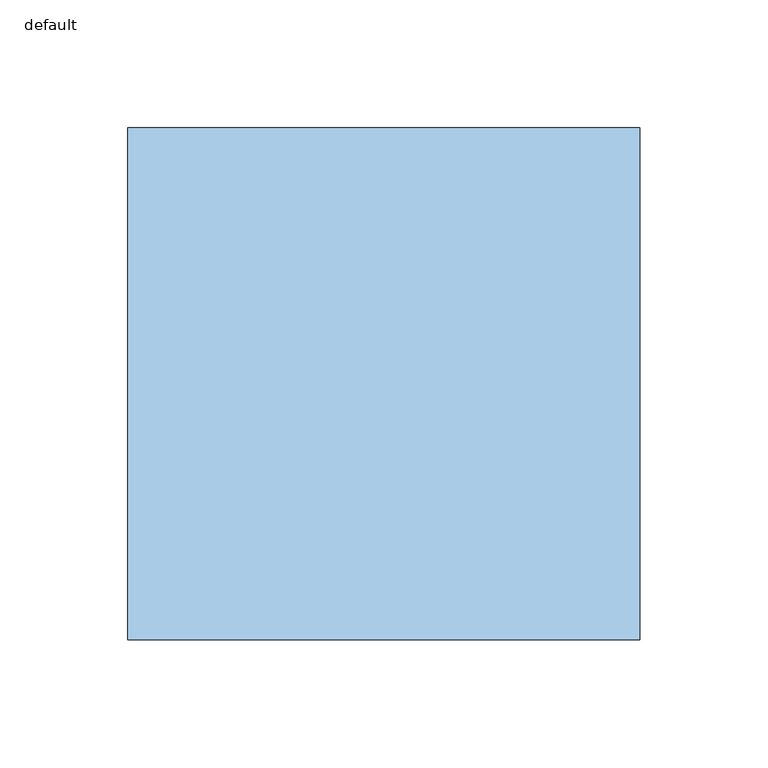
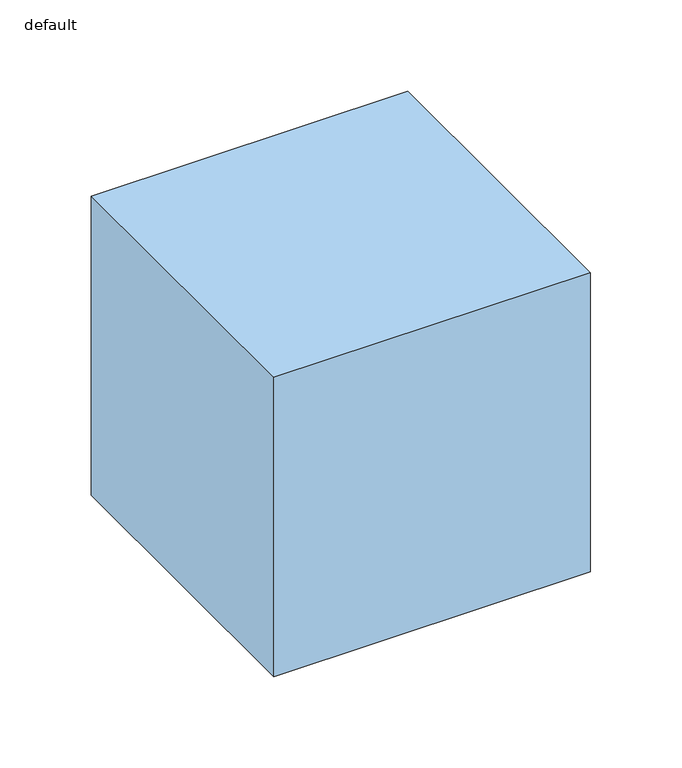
"""IFC4 building model written with IfcOpenShell, lengths in millimetres: window geometry, Wn_Отв-П в стене : default."""

import ifcopenshell
import ifcopenshell.guid

model = None  # the IFC model being written
_history = None  # IfcOwnerHistory: only IFC2X3 demands one
_inside = {}  # id of a spatial element -> (the spatial element, [elements in it])
_under = {}  # id of a project, library or spatial element -> (it, [spatial elements below it])
_declared = {}  # id of a project -> (the project, [libraries it declares])
_typed = {}  # id of a type object -> (the type object, [elements of that type])
_made_of = {}  # id of a material, layer set ... -> (it, [elements and type objects made of it])


def new_model(schema):
    """Start an empty IFC model of exactly this schema.

    Asked for "IFC4X3", IfcOpenShell would pick the latest addendum, in which some entities
    have other attributes; the version numbers below select the first issue.
    IFC2X3 requires an IfcOwnerHistory on every rooted entity: one is made here for all.
    """
    global model, _history
    if schema == "IFC4X3":
        model = ifcopenshell.file(schema_version=(4, 3, 0, 0))
    else:
        model = ifcopenshell.file(schema=schema)
    _inside.clear()
    _under.clear()
    _declared.clear()
    _typed.clear()
    _made_of.clear()
    _history = None
    if model.schema == "IFC2X3":
        org = make("IfcOrganization", Name="unknown")
        user = make(
            "IfcPersonAndOrganization",
            ThePerson=make("IfcPerson", FamilyName="unknown"),
            TheOrganization=org,
        )
        app = make(
            "IfcApplication",
            ApplicationDeveloper=org,
            Version="unknown",
            ApplicationFullName="unknown",
            ApplicationIdentifier="unknown",
        )
        _history = make(
            "IfcOwnerHistory",
            OwningUser=user,
            OwningApplication=app,
            ChangeAction="ADDED",
            CreationDate=0,
        )
    return model


def make(cls, **values):
    """One entity of the class cls with the attributes given. An attribute that is None is left unset."""
    return model.create_entity(
        cls, **{name: value for name, value in values.items() if value is not None}
    )


def rooted(cls, **values):
    """An entity with a GlobalId (a new one), such as an element, a storey or a relation."""
    return make(cls, GlobalId=ifcopenshell.guid.new(), OwnerHistory=_history, **values)


def si_unit(unit_type, name, prefix=None):
    """IfcSIUnit, for example si_unit("LENGTHUNIT", "METRE", prefix="MILLI")."""
    return make("IfcSIUnit", UnitType=unit_type, Prefix=prefix, Name=name)


def assignment(units):
    """IfcUnitAssignment: the units of a project."""
    return None if units is None else make("IfcUnitAssignment", Units=units)


def point(xyz):
    """IfcCartesianPoint."""
    return None if xyz is None else make("IfcCartesianPoint", Coordinates=xyz)


def direction(xyz):
    """IfcDirection."""
    return None if xyz is None else make("IfcDirection", DirectionRatios=xyz)


def frame(location, z_axis=None, x_axis=None):
    """IfcAxis2Placement3D, a coordinate frame: its origin and axes. An axis left out is left unset."""
    return make(
        "IfcAxis2Placement3D",
        Location=point(location),
        Axis=direction(z_axis),
        RefDirection=direction(x_axis),
    )


def origin():
    """The frame at (0, 0, 0) with its axes left unset."""
    return frame((0.0, 0.0, 0.0))


def origin_with_axes():
    """The frame at (0, 0, 0) with the z axis (0, 0, 1) and the x axis (1, 0, 0) written out."""
    return frame((0.0, 0.0, 0.0), z_axis=(0.0, 0.0, 1.0), x_axis=(1.0, 0.0, 0.0))


def place(relative_to, where):
    """IfcLocalPlacement: puts the frame where relative to a parent placement (None: the world)."""
    return make(
        "IfcLocalPlacement", PlacementRelTo=relative_to, RelativePlacement=where
    )


def context(
    kind, dimensions, precision=None, world=None, true_north=None, identifier=None
):
    """IfcGeometricRepresentationContext, for example the 3D "Model" context."""
    return make(
        "IfcGeometricRepresentationContext",
        ContextIdentifier=identifier,
        ContextType=kind,
        CoordinateSpaceDimension=dimensions,
        Precision=precision,
        WorldCoordinateSystem=world,
        TrueNorth=true_north,
    )


def project(units=None, contexts=None):
    """IfcProject with its units and contexts."""
    return rooted(
        "IfcProject",
        Name="project",
        RepresentationContexts=contexts,
        UnitsInContext=assignment(units),
    )


def spatial(cls, under=None, at=None, **own):
    """A site, building, storey or space (cls), placed at a placement, below another one or the project."""
    s = rooted(cls, ObjectPlacement=at, **own)
    if under is not None:
        _under.setdefault(under.id(), (under, []))[1].append(s)
    return s


def polyline(points):
    """IfcPolyline through the points."""
    return make("IfcPolyline", Points=[point(p) for p in points])


def outline(outer, holes=None, kind="AREA"):
    """IfcArbitraryClosedProfileDef: a profile drawn as a closed curve; with holes, ...WithVoids."""
    if holes is None:
        return make("IfcArbitraryClosedProfileDef", ProfileType=kind, OuterCurve=outer)
    return make(
        "IfcArbitraryProfileDefWithVoids",
        ProfileType=kind,
        OuterCurve=outer,
        InnerCurves=holes,
    )


def extrude(swept, where, along, depth):
    """IfcExtrudedAreaSolid: the profile swept, set in the frame where, extruded along a direction by depth."""
    return make(
        "IfcExtrudedAreaSolid",
        SweptArea=swept,
        Position=where,
        ExtrudedDirection=direction(along),
        Depth=depth,
    )


def shape(context_of_items, identifier, shape_type, items):
    """IfcShapeRepresentation: the items that make up one representation, for example the "Body"."""
    return make(
        "IfcShapeRepresentation",
        ContextOfItems=context_of_items,
        RepresentationIdentifier=identifier,
        RepresentationType=shape_type,
        Items=items,
    )


def source(mapping_origin, context_of_items, identifier, shape_type, items):
    """IfcRepresentationMap: a shape defined once, which mapped items show again and again."""
    return make(
        "IfcRepresentationMap",
        MappingOrigin=mapping_origin,
        MappedRepresentation=shape(context_of_items, identifier, shape_type, items),
    )


def transform(
    local_origin,
    x_axis=None,
    y_axis=None,
    z_axis=None,
    scale=None,
    scale2=None,
    scale3=None,
    uniform=True,
):
    """IfcCartesianTransformationOperator3D, or its non-uniform kind. x_axis, y_axis, z_axis: its Axis1, 2, 3."""
    if uniform:
        return make(
            "IfcCartesianTransformationOperator3D",
            Axis1=direction(x_axis),
            Axis2=direction(y_axis),
            LocalOrigin=point(local_origin),
            Scale=scale,
            Axis3=direction(z_axis),
        )
    return make(
        "IfcCartesianTransformationOperator3DnonUniform",
        Axis1=direction(x_axis),
        Axis2=direction(y_axis),
        LocalOrigin=point(local_origin),
        Scale=scale,
        Axis3=direction(z_axis),
        Scale2=scale2,
        Scale3=scale3,
    )


def mapped(mapping_source, mapping_target):
    """IfcMappedItem: shows the shape of a source again, moved by a transform."""
    return make(
        "IfcMappedItem", MappingSource=mapping_source, MappingTarget=mapping_target
    )


def made_of(thing, what):
    """Note that an element or type object is made of a material, layer set ...; save() writes the relation."""
    if what is not None:
        _made_of.setdefault(what.id(), (what, []))[1].append(thing)
    return thing


def element(
    cls,
    number,
    at=None,
    inside=None,
    cuts=None,
    type_object=None,
    material=None,
    context=None,
    identifier="Body",
    shape_type=None,
    held_by="IfcProductDefinitionShape",
    body=None,
    shapes=None,
    **own,
):
    """One element of the class cls, such as IfcWall. Its Tag is "e" and its number.

    at: its placement. inside: the storey or other place that contains it. cuts: it is an
    opening in that element (IfcRelVoidsElement). A single representation is given by context,
    identifier, shape_type and body (its items); several are given by shapes. held_by: the class
    of the entity that holds the representations. save() writes the other relations.
    """
    e = rooted(cls, Tag="e%d" % number, ObjectPlacement=at, **own)
    if body is not None:
        shapes = [shape(context, identifier, shape_type, body)]
    if shapes is not None:
        e.Representation = make(held_by, Representations=shapes)
    if inside is not None:
        _inside.setdefault(inside.id(), (inside, []))[1].append(e)
    if cuts is not None:
        rooted(
            "IfcRelVoidsElement", RelatingBuildingElement=cuts, RelatedOpeningElement=e
        )
    if type_object is not None:
        _typed.setdefault(type_object.id(), (type_object, []))[1].append(e)
    return made_of(e, material)


def aggregate(whole, parts):
    """IfcRelAggregates: a whole, such as a stair, and the parts it consists of."""
    return rooted("IfcRelAggregates", RelatingObject=whole, RelatedObjects=parts)


def save(model, path):
    """Write the relations noted so far, then the file.

    IfcRelAggregates (storeys below a building ...), IfcRelContainedInSpatialStructure (elements
    in a storey), IfcRelDefinesByType, IfcRelAssociatesMaterial and IfcRelDeclares: one each for
    every whole, place, type object, material and project.
    """
    for whole, parts in _under.values():
        aggregate(whole, parts)
    for where, things in _inside.values():
        rooted(
            "IfcRelContainedInSpatialStructure",
            RelatedElements=things,
            RelatingStructure=where,
        )
    for kind, things in _typed.values():
        rooted("IfcRelDefinesByType", RelatedObjects=things, RelatingType=kind)
    for what, things in _made_of.values():
        rooted("IfcRelAssociatesMaterial", RelatedObjects=things, RelatingMaterial=what)
    for by, libraries in _declared.values():
        rooted("IfcRelDeclares", RelatingContext=by, RelatedDefinitions=libraries)
    model.write(path)


def default_0834c612(model_context):
    return source(origin(), model_context, "Body", "SweptSolid", [
        extrude(outline(polyline([(25.0, 100.0), (225.0, 100.0), (225.0, -100.0), (25.0, -100.0), (25.0, 100.0)])), origin_with_axes(), (0.0, 0.0, 1.0), 200.0),
    ])


if __name__ == "__main__":
    model = new_model("IFC4")
    model_context = context("Model", 3, world=origin())
    ifc_project = project(units=[si_unit("LENGTHUNIT", "METRE", prefix="MILLI")], contexts=[model_context])
    site = spatial("IfcSite", under=ifc_project)
    building = spatial("IfcBuilding", under=site)
    placement = place(None, origin())
    default_shape = default_0834c612(model_context)
    element("IfcWindow", 1, ObjectType="Wn_Отв-П в стене : default", at=placement, inside=building, context=model_context, shape_type="MappedRepresentation", body=[
        mapped(default_shape, transform((0.0, 0.0, 0.0), x_axis=(1.0, 0.0, 0.0), y_axis=(0.0, 1.0, 0.0), z_axis=(0.0, 0.0, 1.0))),
    ])
    save(model, "model.ifc")
